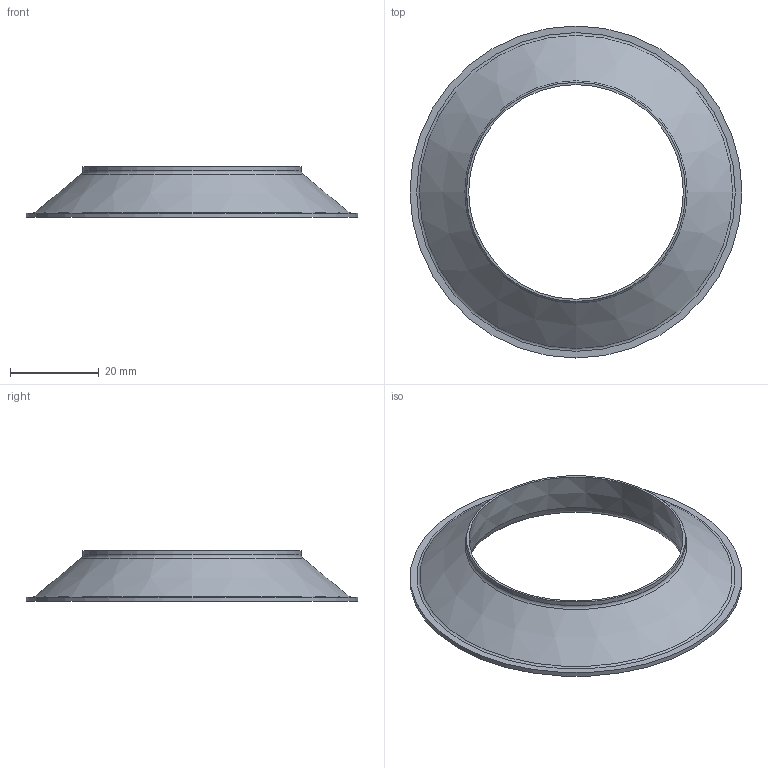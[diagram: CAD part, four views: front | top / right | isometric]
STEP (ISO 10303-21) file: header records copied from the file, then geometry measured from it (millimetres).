
FILE_DESCRIPTION( ('This file contains a STEP AP42 implementation' ,'as created by ZW3D STEP Interface translator.') ,'2;1' );
FILE_NAME( 'KM-48.stp' ,'26 511.1026 1', (''), ('ZWCAD Software Co.'), 'Version 1.0', 'ZW3D to STEP translator', '' );
FILE_SCHEMA(('AP242_MANAGED_MODEL_BASED_3D_ENGINEERING_MIM_LF { 1 0 10303 442 1 1 4 }'));
Length unit declared in the file: millimetre
Products named in the file (1): 0
Bounding box: 75 x 75 x 11.5 mm (x, y, z)
Volume: 11094.8 mm3; surface area: 7717.8 mm2
Topology: 1 solids, 1 shells, 10 faces, 17 edges, 10 vertices
Faces by surface type: plane 3, torus 3, cylinder 2, cone 2
Full cylindrical faces by diameter (mm): 49.5 x1, 75 x1
Entity records: 276 total; most frequent: DIRECTION 52, CARTESIAN_POINT 38, ORIENTED_EDGE 34, AXIS2_PLACEMENT_3D 24, EDGE_CURVE 17, CIRCLE 13, EDGE_LOOP 13, VERTEX_POINT 10
